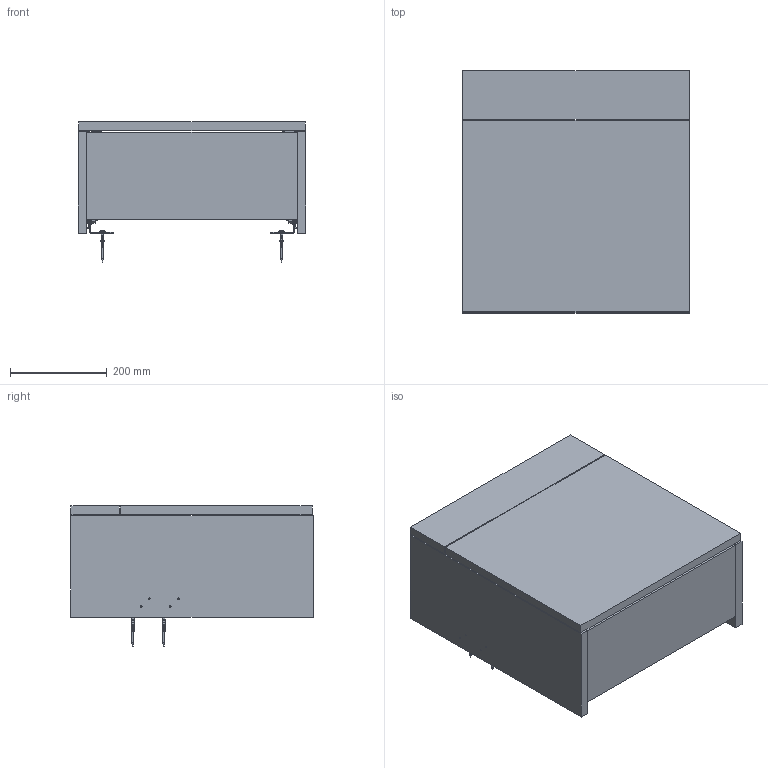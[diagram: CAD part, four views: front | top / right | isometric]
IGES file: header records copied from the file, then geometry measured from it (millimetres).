
Global section: file name: Mono Model MNTJ; native system: Autodesk Inventor 2024; preprocessor: unknown; author: pc11; date: 20260722.135214; units: millimetre
Bounding box: 470 x 500 x 289.85 mm (x, y, z)
Volume: 11357769.5 mm3; surface area: 1562302.8 mm2
Topology: 45 solids, 47 shells, 3618 faces, 9250 edges, 5672 vertices
Faces by surface type: bspline 3618
